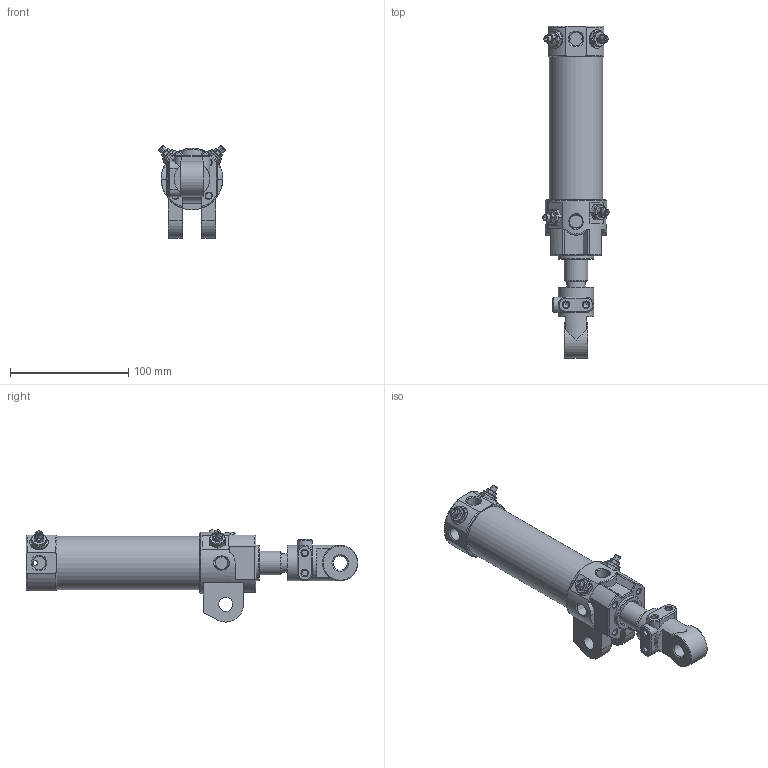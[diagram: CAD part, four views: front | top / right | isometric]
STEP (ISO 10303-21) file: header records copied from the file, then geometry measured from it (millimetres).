
FILE_DESCRIPTION((''),'2;1');
FILE_NAME('I:\3D電子目錄\氣缸\DCK\DCK\DCK-1A-40x75-I.stp','2008-02-26T10:51:02',('Administrator'),(''),'Autodesk Inventor 11','Autodesk Inventor 11','');
FILE_SCHEMA(('AUTOMOTIVE_DESIGN { 1 0 10303 214 1 1 1 1 }'));
Length unit declared in the file: millimetre
Products named in the file (6): DCK-1A-40-I; 緩衝針; 緩衝針-1; 緩衝針-201; 緩衝針-3
Assembly tree (8 placements, depth 3):
  DCK-1A-40-I
    DCK-1A-40-I
    緩衝針  x4
      緩衝針-1
      緩衝針-201
      緩衝針-3
Bounding box: 56.06 x 281 x 78.02 mm (x, y, z)
Volume: 231363 mm3; surface area: 96309.9 mm2
Topology: 16 solids, 16 shells, 688 faces, 1580 edges, 982 vertices
Faces by surface type: plane 234, cylinder 209, cone 144, bspline 64, torus 35, sphere 2
Full cylindrical faces by diameter (mm): 2 x1, 3 x3, 3.8 x2, 4 x6, 4.6 x4, 5 x8, 5.1 x4, 5.2 x12, 5.5 x4, 7 x1, 7.25 x1, 7.9 x4, 8 x2, 8.3 x1, 10 x2, 12 x3, 12.8 x4, 16 x3, 20 x1, 21 x1, 22 x3, 23 x1, 24.7 x1, 26 x1, 28 x1, 29 x1, 30 x3, 33 x1, 40 x1, 42 x2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
Entity records: 23322 total; most frequent: CARTESIAN_POINT 14090, DIRECTION 1810, ORIENTED_EDGE 1772, EDGE_CURVE 886, AXIS2_PLACEMENT_3D 781, EDGE_LOOP 625, VERTEX_POINT 617, FACE_OUTER_BOUND 437
